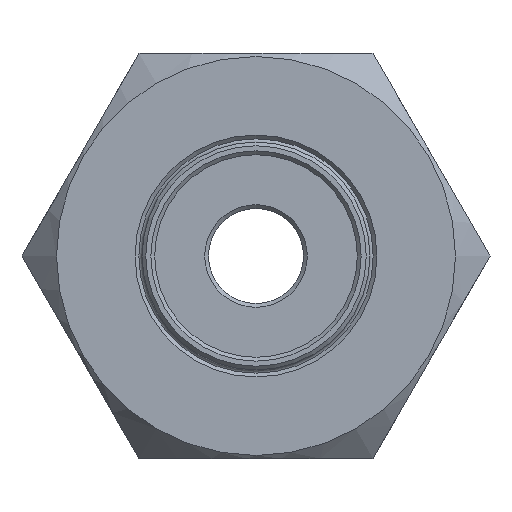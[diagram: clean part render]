
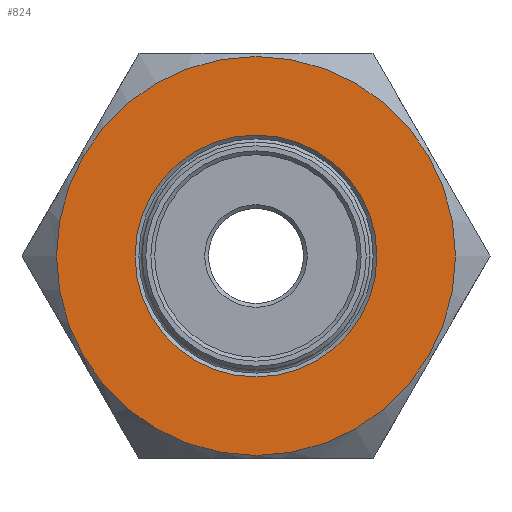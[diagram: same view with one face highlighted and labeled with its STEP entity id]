
A CAD part, left-side view. The second image highlights one B-rep face of the part: STEP entity #824.
In plain terms, the highlighted planar face has unit normal (-1, 0, 0).
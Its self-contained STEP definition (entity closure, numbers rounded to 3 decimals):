
#49=FACE_BOUND('',#145,.T.);
#65=PLANE('',#959);
#92=FACE_OUTER_BOUND('',#144,.T.);
#144=EDGE_LOOP('',(#603));
#145=EDGE_LOOP('',(#604));
#290=CIRCLE('',#940,15.75);
#297=CIRCLE('',#954,9.55);
#363=VERTEX_POINT('',#1393);
#369=VERTEX_POINT('',#1419);
#445=EDGE_CURVE('',#363,#363,#290,.T.);
#457=EDGE_CURVE('',#369,#369,#297,.T.);
#603=ORIENTED_EDGE('',*,*,#445,.T.);
#604=ORIENTED_EDGE('',*,*,#457,.F.);
#824=ADVANCED_FACE('',(#92,#49),#65,.T.);
#940=AXIS2_PLACEMENT_3D('',#1395,#1068,#1069);
#954=AXIS2_PLACEMENT_3D('',#1420,#1101,#1102);
#959=AXIS2_PLACEMENT_3D('',#1430,#1113,#1114);
#1068=DIRECTION('center_axis',(-1.,0.,0.));
#1069=DIRECTION('ref_axis',(0.,1.,0.));
#1101=DIRECTION('center_axis',(-1.,0.,0.));
#1102=DIRECTION('ref_axis',(0.,0.,-1.));
#1113=DIRECTION('center_axis',(-1.,0.,0.));
#1114=DIRECTION('ref_axis',(0.,0.,1.));
#1393=CARTESIAN_POINT('',(-13.5,-15.75,0.));
#1395=CARTESIAN_POINT('Origin',(-13.5,0.,0.));
#1419=CARTESIAN_POINT('',(-13.5,0.,9.55));
#1420=CARTESIAN_POINT('Origin',(-13.5,0.,0.));
#1430=CARTESIAN_POINT('Origin',(-13.5,0.,0.));
